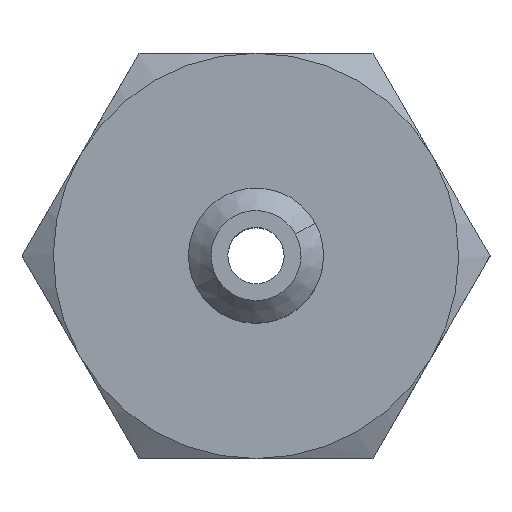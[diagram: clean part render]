
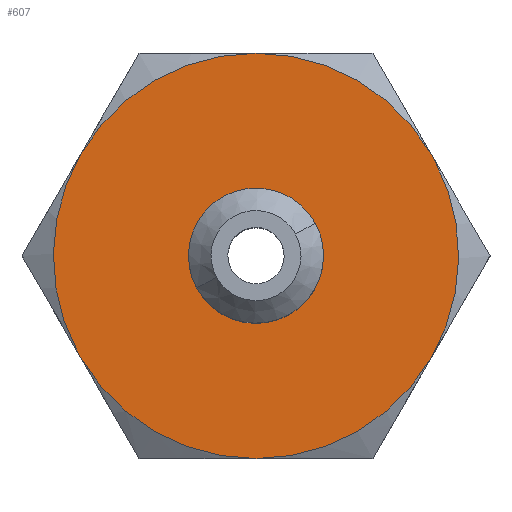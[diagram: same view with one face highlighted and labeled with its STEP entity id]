
A CAD part, top view. The second image highlights one B-rep face of the part: STEP entity #607.
In plain terms, the highlighted planar face has unit normal (0, 0, 1).
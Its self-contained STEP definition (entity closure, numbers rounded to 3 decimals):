
#161=CARTESIAN_POINT('Vertex',(-2.633,-1.438,14.)) ;
#177=CARTESIAN_POINT('Vertex',(2.633,1.438,14.)) ;
#180=CARTESIAN_POINT('Axis2P3D Location',(0.,0.,14.)) ;
#197=CARTESIAN_POINT('Axis2P3D Location',(0.,0.,14.)) ;
#532=CARTESIAN_POINT('Axis2P3D Location',(9.,0.,14.)) ;
#537=CARTESIAN_POINT('Axis2P3D Location',(0.,0.,14.)) ;
#541=CARTESIAN_POINT('Vertex',(-7.898,-4.315,14.)) ;
#543=CARTESIAN_POINT('Vertex',(-7.794,-4.5,14.)) ;
#546=CARTESIAN_POINT('Axis2P3D Location',(0.,0.,14.)) ;
#550=CARTESIAN_POINT('Vertex',(0.,-9.,14.)) ;
#553=CARTESIAN_POINT('Axis2P3D Location',(0.,0.,14.)) ;
#557=CARTESIAN_POINT('Vertex',(7.794,-4.5,14.)) ;
#560=CARTESIAN_POINT('Axis2P3D Location',(0.,0.,14.)) ;
#564=CARTESIAN_POINT('Vertex',(7.898,4.315,14.)) ;
#567=CARTESIAN_POINT('Axis2P3D Location',(0.,0.,14.)) ;
#571=CARTESIAN_POINT('Vertex',(7.794,4.5,14.)) ;
#574=CARTESIAN_POINT('Axis2P3D Location',(0.,0.,14.)) ;
#578=CARTESIAN_POINT('Vertex',(0.,9.,14.)) ;
#581=CARTESIAN_POINT('Axis2P3D Location',(0.,0.,14.)) ;
#585=CARTESIAN_POINT('Vertex',(-7.794,4.5,14.)) ;
#588=CARTESIAN_POINT('Axis2P3D Location',(0.,0.,14.)) ;
#181=DIRECTION('Axis2P3D Direction',(0.,0.,1.)) ;
#198=DIRECTION('Axis2P3D Direction',(0.,0.,1.)) ;
#533=DIRECTION('Axis2P3D Direction',(0.,0.,1.)) ;
#534=DIRECTION('Axis2P3D XDirection',(1.,0.,0.)) ;
#538=DIRECTION('Axis2P3D Direction',(0.,0.,1.)) ;
#547=DIRECTION('Axis2P3D Direction',(0.,0.,1.)) ;
#554=DIRECTION('Axis2P3D Direction',(0.,0.,1.)) ;
#561=DIRECTION('Axis2P3D Direction',(0.,0.,1.)) ;
#568=DIRECTION('Axis2P3D Direction',(0.,0.,1.)) ;
#575=DIRECTION('Axis2P3D Direction',(0.,0.,1.)) ;
#582=DIRECTION('Axis2P3D Direction',(0.,0.,1.)) ;
#589=DIRECTION('Axis2P3D Direction',(0.,0.,1.)) ;
#182=AXIS2_PLACEMENT_3D('Circle Axis2P3D',#180,#181,$) ;
#199=AXIS2_PLACEMENT_3D('Circle Axis2P3D',#197,#198,$) ;
#535=AXIS2_PLACEMENT_3D('Plane Axis2P3D',#532,#533,#534) ;
#539=AXIS2_PLACEMENT_3D('Circle Axis2P3D',#537,#538,$) ;
#548=AXIS2_PLACEMENT_3D('Circle Axis2P3D',#546,#547,$) ;
#555=AXIS2_PLACEMENT_3D('Circle Axis2P3D',#553,#554,$) ;
#562=AXIS2_PLACEMENT_3D('Circle Axis2P3D',#560,#561,$) ;
#569=AXIS2_PLACEMENT_3D('Circle Axis2P3D',#567,#568,$) ;
#576=AXIS2_PLACEMENT_3D('Circle Axis2P3D',#574,#575,$) ;
#583=AXIS2_PLACEMENT_3D('Circle Axis2P3D',#581,#582,$) ;
#590=AXIS2_PLACEMENT_3D('Circle Axis2P3D',#588,#589,$) ;
#594=ORIENTED_EDGE('',*,*,#545,.T.) ;
#595=ORIENTED_EDGE('',*,*,#552,.T.) ;
#596=ORIENTED_EDGE('',*,*,#559,.T.) ;
#597=ORIENTED_EDGE('',*,*,#566,.T.) ;
#598=ORIENTED_EDGE('',*,*,#573,.T.) ;
#599=ORIENTED_EDGE('',*,*,#580,.T.) ;
#600=ORIENTED_EDGE('',*,*,#587,.T.) ;
#601=ORIENTED_EDGE('',*,*,#592,.T.) ;
#604=ORIENTED_EDGE('',*,*,#184,.F.) ;
#605=ORIENTED_EDGE('',*,*,#201,.F.) ;
#606=FACE_BOUND('',#603,.T.) ;
#607=ADVANCED_FACE('MAIN',(#602,#606),#536,.T.) ;
#183=CIRCLE('generated circle',#182,3.) ;
#200=CIRCLE('generated circle',#199,3.) ;
#540=CIRCLE('generated circle',#539,9.) ;
#549=CIRCLE('generated circle',#548,9.) ;
#556=CIRCLE('generated circle',#555,9.) ;
#563=CIRCLE('generated circle',#562,9.) ;
#570=CIRCLE('generated circle',#569,9.) ;
#577=CIRCLE('generated circle',#576,9.) ;
#584=CIRCLE('generated circle',#583,9.) ;
#591=CIRCLE('generated circle',#590,9.) ;
#184=EDGE_CURVE('',#178,#162,#183,.T.) ;
#201=EDGE_CURVE('',#162,#178,#200,.T.) ;
#545=EDGE_CURVE('',#542,#544,#540,.T.) ;
#552=EDGE_CURVE('',#544,#551,#549,.T.) ;
#559=EDGE_CURVE('',#551,#558,#556,.T.) ;
#566=EDGE_CURVE('',#558,#565,#563,.T.) ;
#573=EDGE_CURVE('',#565,#572,#570,.T.) ;
#580=EDGE_CURVE('',#572,#579,#577,.T.) ;
#587=EDGE_CURVE('',#579,#586,#584,.T.) ;
#592=EDGE_CURVE('',#586,#542,#591,.T.) ;
#593=EDGE_LOOP('',(#594,#595,#596,#597,#598,#599,#600,#601)) ;
#603=EDGE_LOOP('',(#604,#605)) ;
#602=FACE_OUTER_BOUND('',#593,.T.) ;
#536=PLANE('',#535) ;
#162=VERTEX_POINT('',#161) ;
#178=VERTEX_POINT('',#177) ;
#542=VERTEX_POINT('',#541) ;
#544=VERTEX_POINT('',#543) ;
#551=VERTEX_POINT('',#550) ;
#558=VERTEX_POINT('',#557) ;
#565=VERTEX_POINT('',#564) ;
#572=VERTEX_POINT('',#571) ;
#579=VERTEX_POINT('',#578) ;
#586=VERTEX_POINT('',#585) ;
